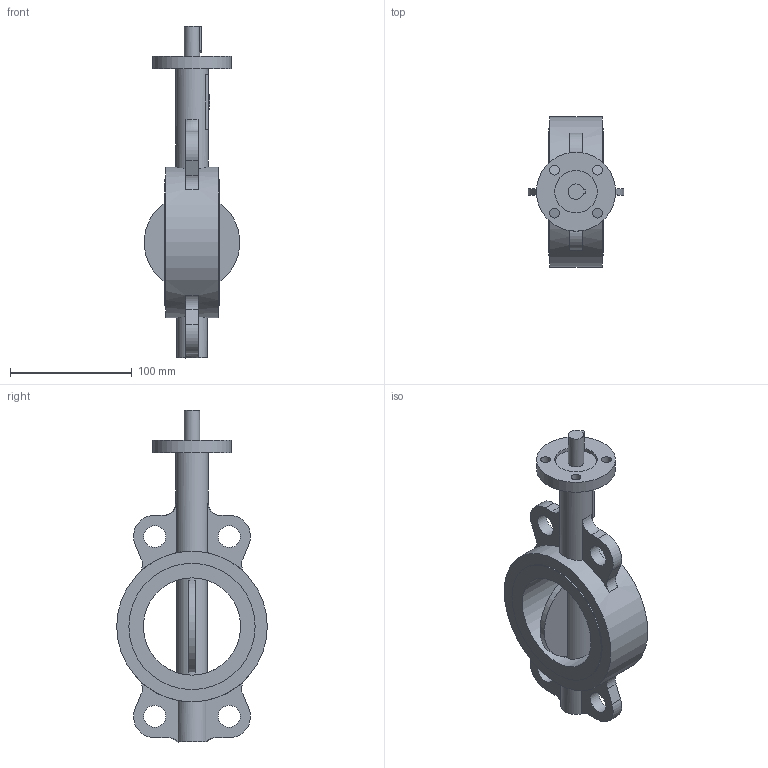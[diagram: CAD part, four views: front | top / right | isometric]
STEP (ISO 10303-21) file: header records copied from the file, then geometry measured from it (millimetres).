
FILE_DESCRIPTION(('STEP AP203'), '1');
FILE_NAME('青蜮铕 017W.Y_DN80_PN10_PN16', '', ('UNSPECIFIED'), ('UNSPECIFIED'), 'ASCON STEP Converter 1.6', 'ASCON Math Kernel', '');
FILE_SCHEMA(('CONFIG_CONTROL_DESIGN'));
Length unit declared in the file: millimetre
Bounding box: 78.52 x 123.9 x 273 mm (x, y, z)
Volume: 495747.2 mm3; surface area: 83803 mm2
Topology: 1 solids, 1 shells, 90 faces, 219 edges, 144 vertices
Faces by surface type: plane 48, cylinder 38, torus 4
Full cylindrical faces by diameter (mm): 8 x4, 12.6 x1, 18 x4, 25 x1, 27 x1, 35 x1, 65 x1, 80 x1, 103.9 x2, 123.9 x1
Entity records: 4365 total; most frequent: CARTESIAN_POINT 1462, DIRECTION 454, ORIENTED_EDGE 404, EDGE_CURVE 202, AXIS2_PLACEMENT_3D 181, VERTEX_POINT 144, EDGE_LOOP 140, FACE_BOUND 108
